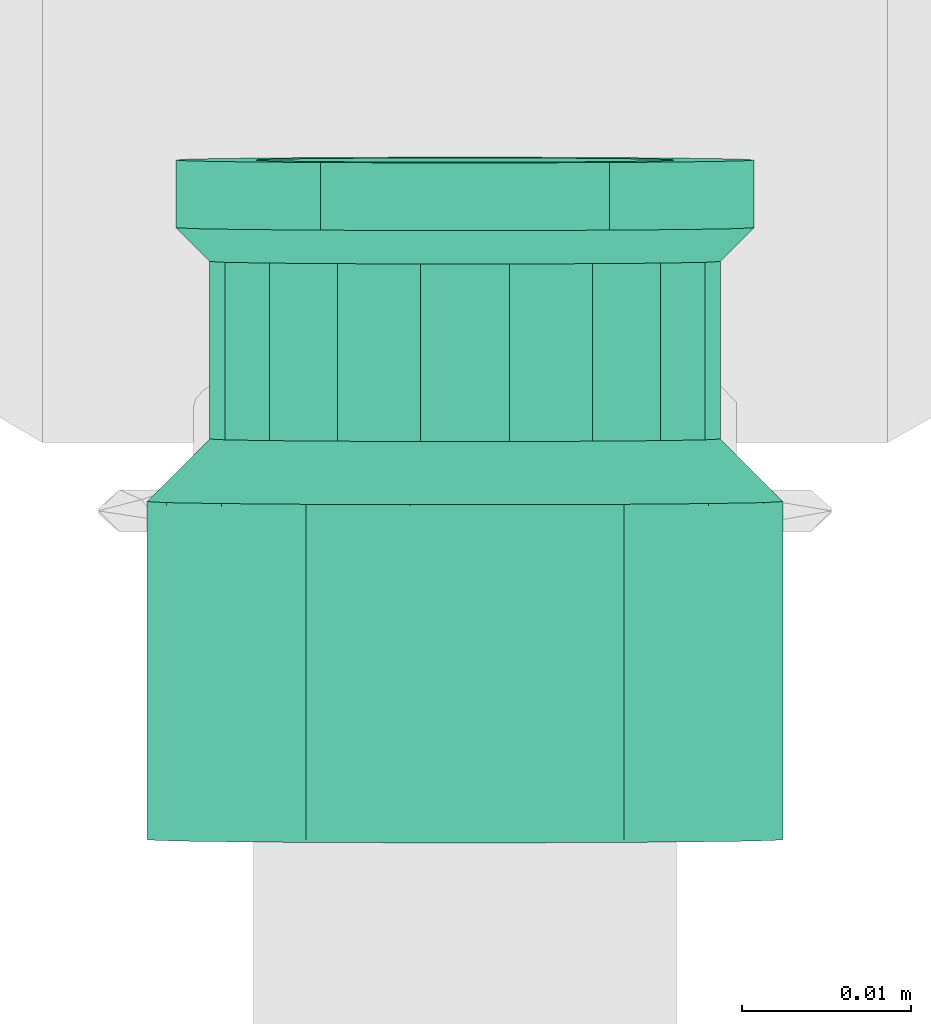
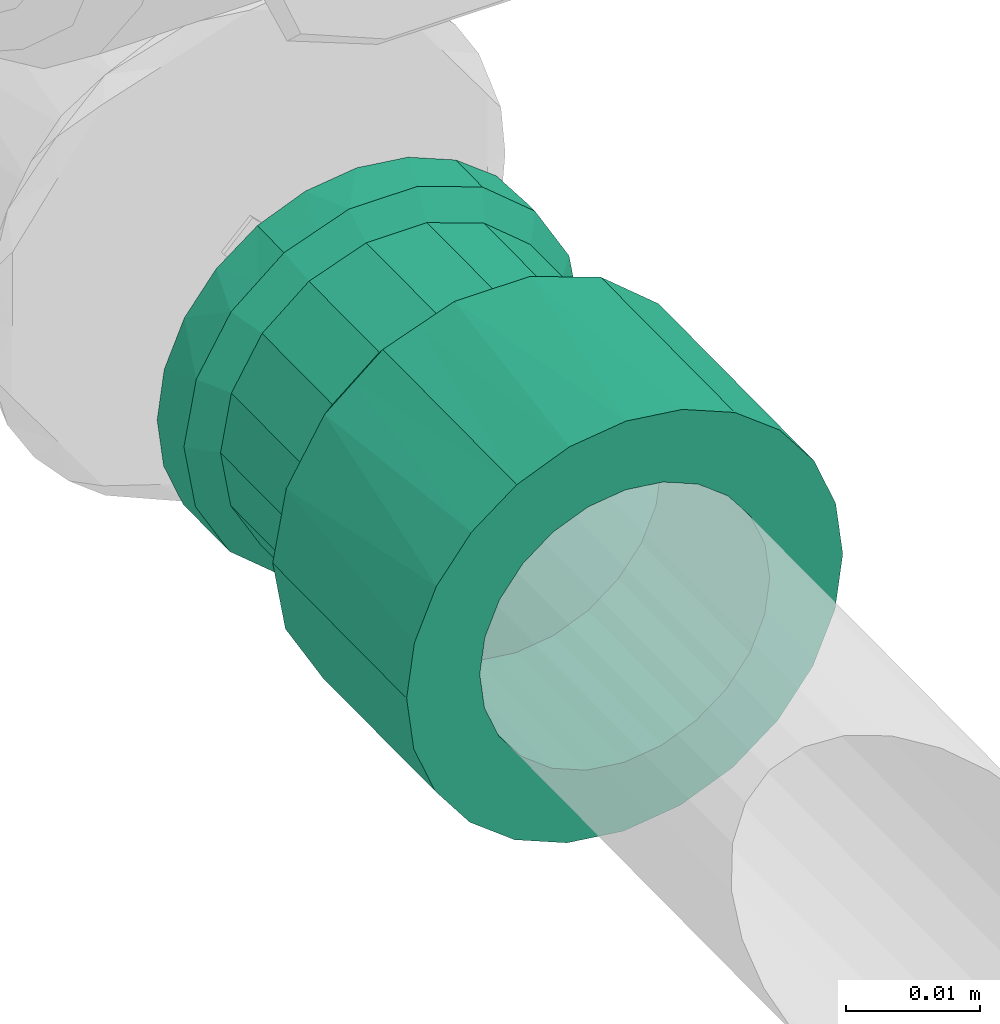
# One storey, part 333 of 589: 1 flow fitting.
"""IFC2X3 building model written with IfcOpenShell, lengths in millimetres."""

import ifcopenshell
import ifcopenshell.guid

model = None  # the IFC model being written
_history = None  # IfcOwnerHistory: only IFC2X3 demands one
_inside = {}  # id of a spatial element -> (the spatial element, [elements in it])
_under = {}  # id of a project, library or spatial element -> (it, [spatial elements below it])
_declared = {}  # id of a project -> (the project, [libraries it declares])
_typed = {}  # id of a type object -> (the type object, [elements of that type])
_made_of = {}  # id of a material, layer set ... -> (it, [elements and type objects made of it])


def new_model(schema):
    """Start an empty IFC model of exactly this schema.

    Asked for "IFC4X3", IfcOpenShell would pick the latest addendum, in which some entities
    have other attributes; the version numbers below select the first issue.
    IFC2X3 requires an IfcOwnerHistory on every rooted entity: one is made here for all.
    """
    global model, _history
    if schema == "IFC4X3":
        model = ifcopenshell.file(schema_version=(4, 3, 0, 0))
    else:
        model = ifcopenshell.file(schema=schema)
    _inside.clear()
    _under.clear()
    _declared.clear()
    _typed.clear()
    _made_of.clear()
    _history = None
    if model.schema == "IFC2X3":
        org = make("IfcOrganization", Name="unknown")
        user = make(
            "IfcPersonAndOrganization",
            ThePerson=make("IfcPerson", FamilyName="unknown"),
            TheOrganization=org,
        )
        app = make(
            "IfcApplication",
            ApplicationDeveloper=org,
            Version="unknown",
            ApplicationFullName="unknown",
            ApplicationIdentifier="unknown",
        )
        _history = make(
            "IfcOwnerHistory",
            OwningUser=user,
            OwningApplication=app,
            ChangeAction="ADDED",
            CreationDate=0,
        )
    return model


def make(cls, **values):
    """One entity of the class cls with the attributes given. An attribute that is None is left unset."""
    return model.create_entity(
        cls, **{name: value for name, value in values.items() if value is not None}
    )


def entity(cls, *values):
    """Any entity or typed value of the class cls, its attributes in the order of the schema. None: left unset."""
    e = model.create_entity(cls)
    for i, value in enumerate(values):
        if value is not None:
            e[i] = value
    return e


def rooted(cls, **values):
    """An entity with a GlobalId (a new one), such as an element, a storey or a relation."""
    return make(cls, GlobalId=ifcopenshell.guid.new(), OwnerHistory=_history, **values)


def si_unit(unit_type, name, prefix=None):
    """IfcSIUnit, for example si_unit("LENGTHUNIT", "METRE", prefix="MILLI")."""
    return make("IfcSIUnit", UnitType=unit_type, Prefix=prefix, Name=name)


def converted_unit(unit_type, name, factor, base, dimensions=None, offset=None):
    """IfcConversionBasedUnit, such as the inch: factor (a typed value) times the base unit."""
    return make(
        "IfcConversionBasedUnit"
        if offset is None
        else "IfcConversionBasedUnitWithOffset",
        ConversionOffset=offset,
        Dimensions=None
        if dimensions is None
        else entity("IfcDimensionalExponents", *dimensions),
        UnitType=unit_type,
        Name=name,
        ConversionFactor=make(
            "IfcMeasureWithUnit", ValueComponent=factor, UnitComponent=base
        ),
    )


def derived_unit(unit_type, elements):
    """IfcDerivedUnit: a product of units, each with its exponent."""
    return make(
        "IfcDerivedUnit",
        Elements=[
            make("IfcDerivedUnitElement", Unit=unit, Exponent=power)
            for unit, power in elements
        ],
        UnitType=unit_type,
    )


def assignment(units):
    """IfcUnitAssignment: the units of a project."""
    return None if units is None else make("IfcUnitAssignment", Units=units)


def point(xyz):
    """IfcCartesianPoint."""
    return None if xyz is None else make("IfcCartesianPoint", Coordinates=xyz)


def direction(xyz):
    """IfcDirection."""
    return None if xyz is None else make("IfcDirection", DirectionRatios=xyz)


def frame(location, z_axis=None, x_axis=None):
    """IfcAxis2Placement3D, a coordinate frame: its origin and axes. An axis left out is left unset."""
    return make(
        "IfcAxis2Placement3D",
        Location=point(location),
        Axis=direction(z_axis),
        RefDirection=direction(x_axis),
    )


def origin():
    """The frame at (0, 0, 0) with its axes left unset."""
    return frame((0.0, 0.0, 0.0))


def place(relative_to, where):
    """IfcLocalPlacement: puts the frame where relative to a parent placement (None: the world)."""
    return make(
        "IfcLocalPlacement", PlacementRelTo=relative_to, RelativePlacement=where
    )


def context(
    kind, dimensions, precision=None, world=None, true_north=None, identifier=None
):
    """IfcGeometricRepresentationContext, for example the 3D "Model" context."""
    return make(
        "IfcGeometricRepresentationContext",
        ContextIdentifier=identifier,
        ContextType=kind,
        CoordinateSpaceDimension=dimensions,
        Precision=precision,
        WorldCoordinateSystem=world,
        TrueNorth=true_north,
    )


def subcontext(parent, identifier, kind, view, scale=None):
    """IfcGeometricRepresentationSubContext, for example "Body" below "Model"."""
    return make(
        "IfcGeometricRepresentationSubContext",
        ContextIdentifier=identifier,
        ContextType=kind,
        ParentContext=parent,
        TargetScale=scale,
        TargetView=view,
    )


def project(units=None, contexts=None):
    """IfcProject with its units and contexts."""
    return rooted(
        "IfcProject",
        Name="project",
        RepresentationContexts=contexts,
        UnitsInContext=assignment(units),
    )


def spatial(cls, under=None, at=None, **own):
    """A site, building, storey or space (cls), placed at a placement, below another one or the project."""
    s = rooted(cls, ObjectPlacement=at, **own)
    if under is not None:
        _under.setdefault(under.id(), (under, []))[1].append(s)
    return s


def faces_of(points, faces, orient=None, outer=None):
    """IfcFace entities. A face is a list of loops; a loop is a list of indices into points, from 0.

    orient and outer hold one flag for each loop. By default every Orientation is true, the
    first loop of a face is its IfcFaceOuterBound and the others are IfcFaceBound.
    """
    made = []
    for i, loops in enumerate(faces):
        bounds = []
        for j, loop in enumerate(loops):
            is_outer = j == 0 if outer is None else outer[i][j]
            bounds.append(
                make(
                    "IfcFaceOuterBound" if is_outer else "IfcFaceBound",
                    Bound=make("IfcPolyLoop", Polygon=[points[k] for k in loop]),
                    Orientation=True if orient is None else orient[i][j],
                )
            )
        made.append(make("IfcFace", Bounds=bounds))
    return made


def faceted_brep(points, faces, orient=None, outer=None, voids=None):
    """IfcFacetedBrep: a solid bounded by flat faces; with voids (closed shells), ...WithVoids."""
    shared = [point(p) for p in points]
    hull = make("IfcClosedShell", CfsFaces=faces_of(shared, faces, orient, outer))
    if voids is None:
        return make("IfcFacetedBrep", Outer=hull)
    return make(
        "IfcFacetedBrepWithVoids",
        Outer=hull,
        Voids=[
            make(cls, CfsFaces=faces_of(shared, fs, o, b)) for cls, fs, o, b in voids
        ],
    )


def shape(context_of_items, identifier, shape_type, items):
    """IfcShapeRepresentation: the items that make up one representation, for example the "Body"."""
    return make(
        "IfcShapeRepresentation",
        ContextOfItems=context_of_items,
        RepresentationIdentifier=identifier,
        RepresentationType=shape_type,
        Items=items,
    )


def source(mapping_origin, context_of_items, identifier, shape_type, items):
    """IfcRepresentationMap: a shape defined once, which mapped items show again and again."""
    return make(
        "IfcRepresentationMap",
        MappingOrigin=mapping_origin,
        MappedRepresentation=shape(context_of_items, identifier, shape_type, items),
    )


def transform(
    local_origin,
    x_axis=None,
    y_axis=None,
    z_axis=None,
    scale=None,
    scale2=None,
    scale3=None,
    uniform=True,
):
    """IfcCartesianTransformationOperator3D, or its non-uniform kind. x_axis, y_axis, z_axis: its Axis1, 2, 3."""
    if uniform:
        return make(
            "IfcCartesianTransformationOperator3D",
            Axis1=direction(x_axis),
            Axis2=direction(y_axis),
            LocalOrigin=point(local_origin),
            Scale=scale,
            Axis3=direction(z_axis),
        )
    return make(
        "IfcCartesianTransformationOperator3DnonUniform",
        Axis1=direction(x_axis),
        Axis2=direction(y_axis),
        LocalOrigin=point(local_origin),
        Scale=scale,
        Axis3=direction(z_axis),
        Scale2=scale2,
        Scale3=scale3,
    )


def mapped(mapping_source, mapping_target):
    """IfcMappedItem: shows the shape of a source again, moved by a transform."""
    return make(
        "IfcMappedItem", MappingSource=mapping_source, MappingTarget=mapping_target
    )


def material(Name=None, Category=None):
    """IfcMaterial."""
    return make("IfcMaterial", Name=Name, Category=Category)


def made_of(thing, what):
    """Note that an element or type object is made of a material, layer set ...; save() writes the relation."""
    if what is not None:
        _made_of.setdefault(what.id(), (what, []))[1].append(thing)
    return thing


def type_object(cls, material=None, **own):
    """A type object (cls), such as IfcWallType, which elements share."""
    return made_of(rooted(cls, **own), material)


def type_shapes(of_type, sources):
    """Give a type object the sources (RepresentationMaps) that its elements show as mapped items."""
    of_type.RepresentationMaps = sources


def element(
    cls,
    number,
    at=None,
    inside=None,
    cuts=None,
    type_object=None,
    material=None,
    context=None,
    identifier="Body",
    shape_type=None,
    held_by="IfcProductDefinitionShape",
    body=None,
    shapes=None,
    **own,
):
    """One element of the class cls, such as IfcWall. Its Tag is "e" and its number.

    at: its placement. inside: the storey or other place that contains it. cuts: it is an
    opening in that element (IfcRelVoidsElement). A single representation is given by context,
    identifier, shape_type and body (its items); several are given by shapes. held_by: the class
    of the entity that holds the representations. save() writes the other relations.
    """
    e = rooted(cls, Tag="e%d" % number, ObjectPlacement=at, **own)
    if body is not None:
        shapes = [shape(context, identifier, shape_type, body)]
    if shapes is not None:
        e.Representation = make(held_by, Representations=shapes)
    if inside is not None:
        _inside.setdefault(inside.id(), (inside, []))[1].append(e)
    if cuts is not None:
        rooted(
            "IfcRelVoidsElement", RelatingBuildingElement=cuts, RelatedOpeningElement=e
        )
    if type_object is not None:
        _typed.setdefault(type_object.id(), (type_object, []))[1].append(e)
    return made_of(e, material)


def aggregate(whole, parts):
    """IfcRelAggregates: a whole, such as a stair, and the parts it consists of."""
    return rooted("IfcRelAggregates", RelatingObject=whole, RelatedObjects=parts)


def save(model, path):
    """Write the relations noted so far, then the file.

    IfcRelAggregates (storeys below a building ...), IfcRelContainedInSpatialStructure (elements
    in a storey), IfcRelDefinesByType, IfcRelAssociatesMaterial and IfcRelDeclares: one each for
    every whole, place, type object, material and project.
    """
    for whole, parts in _under.values():
        aggregate(whole, parts)
    for where, things in _inside.values():
        rooted(
            "IfcRelContainedInSpatialStructure",
            RelatedElements=things,
            RelatingStructure=where,
        )
    for kind, things in _typed.values():
        rooted("IfcRelDefinesByType", RelatedObjects=things, RelatingType=kind)
    for what, things in _made_of.values():
        rooted("IfcRelAssociatesMaterial", RelatedObjects=things, RelatingMaterial=what)
    for by, libraries in _declared.values():
        rooted("IfcRelDeclares", RelatingContext=by, RelatedDefinitions=libraries)
    model.write(path)


model = new_model("IFC2X3")

# Units and contexts
model_context = context("Model", 3, precision=0.01, world=origin(), true_north=direction((6.123031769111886e-17, 1.0)))
body_context = subcontext(model_context, "Body", "Model", "MODEL_VIEW")
ifc_project = project(units=[si_unit("LENGTHUNIT", "METRE", prefix="MILLI"), si_unit("AREAUNIT", "SQUARE_METRE"), si_unit("VOLUMEUNIT", "CUBIC_METRE"), converted_unit("PLANEANGLEUNIT", "DEGREE", entity("IfcRatioMeasure", 0.017453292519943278), si_unit("PLANEANGLEUNIT", "RADIAN"), dimensions=[0, 0, 0, 0, 0, 0, 0]), si_unit("MASSUNIT", "GRAM", prefix="KILO"), derived_unit("MASSDENSITYUNIT", [(si_unit("MASSUNIT", "GRAM", prefix="KILO"), 1), (si_unit("LENGTHUNIT", "METRE"), -3)]), derived_unit("IONCONCENTRATIONUNIT", [(si_unit("MASSUNIT", "GRAM", prefix="KILO"), 1), (si_unit("LENGTHUNIT", "METRE"), -3)]), derived_unit("MOMENTOFINERTIAUNIT", [(si_unit("LENGTHUNIT", "METRE"), 4)]), si_unit("TIMEUNIT", "SECOND"), si_unit("FREQUENCYUNIT", "HERTZ"), si_unit("THERMODYNAMICTEMPERATUREUNIT", "DEGREE_CELSIUS"), derived_unit("THERMALTRANSMITTANCEUNIT", [(si_unit("MASSUNIT", "GRAM", prefix="KILO"), 1), (si_unit("THERMODYNAMICTEMPERATUREUNIT", "KELVIN"), -1), (si_unit("TIMEUNIT", "SECOND"), -3)]), derived_unit("THERMALCONDUCTANCEUNIT", [(si_unit("MASSUNIT", "GRAM", prefix="KILO"), 1), (si_unit("THERMODYNAMICTEMPERATUREUNIT", "KELVIN"), -1), (si_unit("TIMEUNIT", "SECOND"), -3), (si_unit("LENGTHUNIT", "METRE"), 1)]), derived_unit("VOLUMETRICFLOWRATEUNIT", [(si_unit("LENGTHUNIT", "METRE"), 3), (si_unit("TIMEUNIT", "SECOND"), -1)]), derived_unit("MASSFLOWRATEUNIT", [(si_unit("MASSUNIT", "GRAM", prefix="KILO"), 1), (si_unit("TIMEUNIT", "SECOND"), -1)]), derived_unit("ROTATIONALFREQUENCYUNIT", [(si_unit("TIMEUNIT", "SECOND"), -1)]), si_unit("ELECTRICCURRENTUNIT", "AMPERE"), si_unit("ELECTRICVOLTAGEUNIT", "VOLT"), si_unit("POWERUNIT", "WATT"), si_unit("FORCEUNIT", "NEWTON", prefix="KILO"), si_unit("ILLUMINANCEUNIT", "LUX"), si_unit("LUMINOUSFLUXUNIT", "LUMEN"), si_unit("LUMINOUSINTENSITYUNIT", "CANDELA"), derived_unit("USERDEFINED", [(si_unit("MASSUNIT", "GRAM", prefix="KILO"), -1), (si_unit("LENGTHUNIT", "METRE"), -2), (si_unit("TIMEUNIT", "SECOND"), 3), (si_unit("LUMINOUSFLUXUNIT", "LUMEN"), 1)]), derived_unit("USERDEFINED", [(si_unit("MASSUNIT", "GRAM", prefix="KILO"), 1), (si_unit("TIMEUNIT", "SECOND"), -3), (si_unit("LENGTHUNIT", "METRE"), 3), (si_unit("ELECTRICCURRENTUNIT", "AMPERE"), -2)]), derived_unit("SOUNDPOWERUNIT", [(si_unit("MASSUNIT", "GRAM", prefix="KILO"), 1), (si_unit("TIMEUNIT", "SECOND"), -3), (si_unit("LENGTHUNIT", "METRE"), 2)]), derived_unit("SOUNDPRESSUREUNIT", [(si_unit("MASSUNIT", "GRAM", prefix="KILO"), 1), (si_unit("LENGTHUNIT", "METRE"), -1), (si_unit("TIMEUNIT", "SECOND"), -2)]), derived_unit("LINEARVELOCITYUNIT", [(si_unit("LENGTHUNIT", "METRE"), 1), (si_unit("TIMEUNIT", "SECOND"), -1)]), si_unit("PRESSUREUNIT", "PASCAL"), derived_unit("USERDEFINED", [(si_unit("MASSUNIT", "GRAM", prefix="KILO"), 1), (si_unit("LENGTHUNIT", "METRE"), -2), (si_unit("TIMEUNIT", "SECOND"), -2)]), derived_unit("LINEARFORCEUNIT", [(si_unit("MASSUNIT", "GRAM", prefix="KILO"), 1), (si_unit("TIMEUNIT", "SECOND"), -2)]), derived_unit("PLANARFORCEUNIT", [(si_unit("MASSUNIT", "GRAM", prefix="KILO"), 1), (si_unit("LENGTHUNIT", "METRE"), -1), (si_unit("TIMEUNIT", "SECOND"), -2)]), derived_unit("SPECIFICHEATCAPACITYUNIT", [(si_unit("THERMODYNAMICTEMPERATUREUNIT", "KELVIN"), -1), (si_unit("LENGTHUNIT", "METRE"), 2), (si_unit("TIMEUNIT", "SECOND"), -2)]), derived_unit("HEATINGVALUEUNIT", [(si_unit("LENGTHUNIT", "METRE"), 2), (si_unit("TIMEUNIT", "SECOND"), -2)]), derived_unit("VAPORPERMEABILITYUNIT", [(si_unit("LENGTHUNIT", "METRE"), -1), (si_unit("TIMEUNIT", "SECOND"), 1)]), derived_unit("DYNAMICVISCOSITYUNIT", [(si_unit("MASSUNIT", "GRAM", prefix="KILO"), 1), (si_unit("TIMEUNIT", "SECOND"), -1), (si_unit("LENGTHUNIT", "METRE"), -1)]), derived_unit("THERMALEXPANSIONCOEFFICIENTUNIT", [(si_unit("THERMODYNAMICTEMPERATUREUNIT", "KELVIN"), -1)]), derived_unit("MODULUSOFELASTICITYUNIT", [(si_unit("MASSUNIT", "GRAM", prefix="KILO"), 1), (si_unit("LENGTHUNIT", "METRE"), -1), (si_unit("TIMEUNIT", "SECOND"), -2)]), derived_unit("ISOTHERMALMOISTURECAPACITYUNIT", [(si_unit("LENGTHUNIT", "METRE"), 3), (si_unit("MASSUNIT", "GRAM", prefix="KILO"), -1)]), derived_unit("MOISTUREDIFFUSIVITYUNIT", [(si_unit("TIMEUNIT", "SECOND"), -1), (si_unit("LENGTHUNIT", "METRE"), 2)])], contexts=[model_context])

# Site, building, storey
site_placement = place(None, origin())
site = spatial("IfcSite", under=ifc_project, at=site_placement, Name="Default", CompositionType="ELEMENT")
building_placement = place(site_placement, origin())
building = spatial("IfcBuilding", under=site, at=building_placement, CompositionType="ELEMENT")
storey_placement = place(building_placement, frame((0.0, 0.0, 100.0)))
storey = spatial("IfcBuildingStorey", under=building, at=storey_placement, Name="TÉRREO", CompositionType="ELEMENT", Elevation=100.0)

# Flow fitting
ifc_material = material(Name="PVC Azul")
pipe_fitting_type = type_object("IfcPipeFittingType", Name="Luva Soldavel com Bucha de Latao - Fortlev - AleBim:Standard", PredefinedType="NOTDEFINED", material=ifc_material)
shared_shape = source(origin(), body_context, "Body", "Brep", [
    faceted_brep([(0.0, -9.400000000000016, -16.28127759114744), (0.0, -13.2936074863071, -13.293607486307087), (0.0, -6.249999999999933, -10.825317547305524), (0.0, -3.235238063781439, -12.074072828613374), (0.0, -4.865798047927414, -18.15940553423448), (0.0, -8.838834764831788, -8.838834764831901), (0.0, -16.281277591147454, -9.399999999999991), (0.0, -10.82531754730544, -6.250000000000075), (0.0, -12.074072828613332, -3.2352380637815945), (0.0, -18.159405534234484, -4.865798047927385), (0.0, -12.5, 0.0), (0.0, -18.8, 0.0), (0.0, -12.074072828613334, 3.2352380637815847), (0.0, -18.159405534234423, 4.8657980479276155), (0.0, -10.825317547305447, 6.250000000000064), (0.0, -16.281277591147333, 9.400000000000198), (0.0, -8.838834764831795, 8.838834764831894), (0.0, -13.293607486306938, 13.29360748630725), (0.0, -6.249999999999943, 10.825317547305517), (0.0, -9.399999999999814, 16.281277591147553), (0.0, -3.23523806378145, 12.07407282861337), (0.0, -4.865798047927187, 18.159405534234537), (0.0, 0.0, 12.5), (0.0, 0.0, 18.8), (0.0, 3.2352380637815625, 12.074072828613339), (0.0, 4.865798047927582, 18.159405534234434), (0.0, 6.2500000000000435, 10.825317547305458), (0.0, 9.400000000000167, 16.28127759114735), (0.0, 8.838834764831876, 8.838834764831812), (0.0, 13.29360748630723, 13.293607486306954), (0.0, 10.825317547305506, 6.249999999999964), (0.0, 16.281277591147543, 9.399999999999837), (0.0, 18.159405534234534, 4.865798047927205), (0.0, 12.074072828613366, 3.2352380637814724), (0.0, 18.8, 0.0), (0.0, 12.5, 0.0), (0.0, 18.15940553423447, -4.865798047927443), (0.0, 12.074072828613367, -3.2352380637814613), (0.0, 16.281277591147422, -9.400000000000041), (0.0, 10.825317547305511, -6.249999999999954), (0.0, 13.293607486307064, -13.293607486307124), (0.0, 8.838834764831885, -8.838834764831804), (0.0, 9.399999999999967, -16.281277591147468), (0.0, 6.250000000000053, -10.825317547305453), (0.0, 4.86579804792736, -18.159405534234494), (0.0, 3.2352380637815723, -12.074072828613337), (0.0, 0.0, -18.8), (0.0, 0.0, -12.5), (20.0, 17.66604204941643, 6.4304710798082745), (20.0, 18.233021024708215, 3.2152355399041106), (20.0, 11.899800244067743, 14.183636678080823), (20.0, 14.400961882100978, 12.08520983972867), (20.0, 16.033501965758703, 9.257840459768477), (20.0, 6.330580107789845, 17.39840655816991), (20.0, 3.2625216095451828, 18.514749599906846), (20.0, 18.8, 0.0), (20.0, 9.398638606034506, 16.282063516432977), (20.0, -17.667654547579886, 6.4260394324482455), (20.0, -9.402722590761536, 16.279705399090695), (20.0, -6.334944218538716, 17.39681801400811), (20.0, -3.267165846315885, 18.513930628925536), (20.0, -14.403992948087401, 12.081597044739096), (20.0, -11.903357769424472, 14.180651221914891), (20.0, -18.8, 0.0), (20.0, -16.03582374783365, 9.253818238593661), (20.0, -0.0023221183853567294, 18.514340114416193), (20.0, -17.66765454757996, -6.426039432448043), (20.0, -11.903357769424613, -14.180651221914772), (20.0, -14.403992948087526, -12.081597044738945), (20.0, -16.035823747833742, -9.253818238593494), (20.0, -6.334944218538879, -17.39681801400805), (20.0, -3.2671658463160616, -18.513930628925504), (20.0, 18.233021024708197, -3.2152355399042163), (20.0, -9.402722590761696, -16.2797053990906), (20.0, 6.330580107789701, -17.398406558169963), (20.0, 3.2625216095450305, -18.514749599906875), (20.0, 9.398638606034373, -16.282063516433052), (20.0, 11.899800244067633, -14.183636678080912), (20.0, 17.66604204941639, -6.43047107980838), (20.0, 16.033501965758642, -9.257840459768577), (20.0, 14.400961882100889, -12.085209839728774), (20.0, -0.0023221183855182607, -18.51434011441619), (23.69999999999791, 14.19050976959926, 5.16134018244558), (23.699999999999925, 15.09999999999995, 0.0), (23.699999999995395, 5.088173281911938, 13.97297617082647), (23.699999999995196, 2.6241598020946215, 14.870231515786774), (23.699999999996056, 9.560675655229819, 11.38977837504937), (23.699999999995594, 7.552186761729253, 13.075720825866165), (23.699999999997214, 12.879837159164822, 7.432588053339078), (23.699999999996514, 11.569164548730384, 9.703835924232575), (23.699999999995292, 0.0018651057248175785, 14.870560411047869), (23.69999999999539, -2.620429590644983, 14.870889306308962), (23.699999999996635, -9.557818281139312, 11.392176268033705), (23.699999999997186, -11.566730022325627, 9.706737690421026), (23.699999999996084, -7.548906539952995, 13.077614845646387), (23.699999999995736, -5.084668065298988, 13.974252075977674), (23.699999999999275, -14.644607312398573, 2.582449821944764), (23.699999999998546, -14.189214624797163, 5.164899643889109), (23.700000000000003, -15.099999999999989, 0.0), (23.699999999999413, -14.732236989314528, 2.085517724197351), (23.699999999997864, -12.877972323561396, 7.4358186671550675), (23.699999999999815, -14.644607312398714, -2.582449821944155), (23.699999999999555, -14.18921462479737, -5.164899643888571), (23.699999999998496, -5.084668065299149, -13.97425207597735), (23.699999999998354, -2.620429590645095, -14.87088930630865), (23.69999999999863, -7.548906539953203, -13.077614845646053), (23.69999999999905, -11.566730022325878, -9.706737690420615), (23.69999999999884, -9.557818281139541, -11.392176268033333), (23.6999999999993, 14.190509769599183, -5.1613401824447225), (23.699999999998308, 0.0018651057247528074, -14.870560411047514), (23.699999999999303, -12.877972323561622, -7.435818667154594), (23.699999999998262, 2.6241598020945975, -14.870231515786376), (23.699999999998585, 9.56067565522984, -11.389778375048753), (23.699999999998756, 11.569164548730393, -9.703835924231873), (23.699999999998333, 5.088173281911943, -13.972976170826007), (23.69999999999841, 7.552186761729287, -13.075720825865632), (23.69999999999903, 12.879837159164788, -7.432588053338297), (34.20000000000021, -14.189214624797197, -5.164899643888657), (34.20000000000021, -14.73223698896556, -2.085517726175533), (34.20000000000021, -15.099999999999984, 0.0), (34.20000000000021, -9.55781828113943, -11.392176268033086), (34.20000000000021, -11.566730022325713, -9.706737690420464), (34.20000000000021, -7.548906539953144, -13.077614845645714), (34.20000000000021, -12.877972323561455, -7.43581866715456), (34.20000000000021, -2.620429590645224, -14.870889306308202), (34.20000000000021, -5.084668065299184, -13.974252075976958), (34.20000000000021, 2.6241598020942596, -14.870231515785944), (34.20000000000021, 0.0018651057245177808, -14.870560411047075), (34.20000000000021, 5.0881732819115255, -13.97297617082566), (34.20000000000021, 7.552186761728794, -13.075720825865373), (34.20000000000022, 11.56916454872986, -9.70383592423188), (34.200000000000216, 9.560675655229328, -11.389778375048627), (34.20000000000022, 12.879837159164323, -7.432588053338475), (34.20000000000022, 14.19050976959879, -5.161340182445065), (34.20000000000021, 15.100000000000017, 0.0), (34.199999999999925, 14.190509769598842, 5.161340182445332), (34.19999999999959, 7.552186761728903, 13.0757208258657), (34.199999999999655, 9.56067565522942, 11.389778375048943), (34.19999999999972, 11.569164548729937, 9.703835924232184), (34.199999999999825, 12.879837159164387, 7.432588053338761), (34.19999999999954, 2.624159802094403, 14.87023151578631), (34.19999999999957, 5.08817328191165, 13.972976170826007), (34.19999999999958, -2.6204295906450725, 14.870889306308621), (34.19999999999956, 0.0018651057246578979, 14.870560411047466), (34.199999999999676, -7.548906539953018, 13.077614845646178), (34.199999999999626, -5.084668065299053, 13.974252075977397), (34.20000000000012, -14.644607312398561, 2.582449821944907), (34.20000000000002, -14.18921462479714, 5.164899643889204), (34.199999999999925, -12.877972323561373, 7.435818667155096), (34.19999999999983, -11.566730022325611, 9.706737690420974), (34.199999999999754, -9.557818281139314, 11.392176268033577), (36.20000000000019, -17.099999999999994, 0.0), (36.20000000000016, -16.698266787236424, 2.2781566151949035), (36.199999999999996, -16.584290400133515, 2.9244961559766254), (36.200000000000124, -16.068580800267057, 5.848992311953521), (36.20000000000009, -14.583664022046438, 8.420695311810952), (36.20000000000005, -13.098747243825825, 10.992398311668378), (36.200000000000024, -10.823754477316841, 12.90107378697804), (36.2, -8.548761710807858, 14.809749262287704), (36.19999999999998, -5.758134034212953, 15.825146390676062), (36.19999999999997, -2.9675063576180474, 16.840543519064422), (36.19999999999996, 0.0021121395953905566, 16.84017106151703), (36.19999999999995, 2.9717306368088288, 16.839798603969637), (36.199999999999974, 8.55247639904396, 14.807604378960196), (36.19999999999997, 5.762103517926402, 15.823701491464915), (36.20000000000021, 17.100000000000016, 0.0), (36.2000000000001, 16.070047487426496, 5.844961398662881), (36.200000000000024, 13.101504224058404, 10.989112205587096), (36.20000000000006, 14.585775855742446, 8.417036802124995), (36.2, 10.826990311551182, 12.898358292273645), (36.20000000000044, 16.07004748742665, -5.844961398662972), (36.200000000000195, 0.0021121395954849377, -16.84017106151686), (36.20000000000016, -2.9675063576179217, -16.84054351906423), (36.20000000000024, 2.9717306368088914, -16.839798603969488), (36.200000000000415, 14.58577585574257, -8.417036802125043), (36.20000000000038, 13.10150422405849, -10.989112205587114), (36.20000000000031, 8.552476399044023, -14.807604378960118), (36.20000000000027, 5.7621035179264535, -15.823701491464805), (36.20000000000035, 10.826990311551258, -12.898358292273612), (36.20000000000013, -5.758134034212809, -15.825146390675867), (36.2000000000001, -8.548761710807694, -14.809749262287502), (36.200000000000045, -16.068580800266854, -5.848992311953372), (36.200000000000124, -16.58429040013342, -2.924496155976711), (36.20000000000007, -13.098747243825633, -10.992398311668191), (36.20000000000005, -14.583664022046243, -8.420695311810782), (36.20000000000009, -10.823754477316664, -12.901073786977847), (40.200000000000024, 8.550000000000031, -14.809034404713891), (40.200000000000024, 12.091525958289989, -12.091525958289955), (40.200000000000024, 6.2500000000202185, -10.825317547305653), (40.200000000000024, 3.2352380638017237, -12.074072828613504), (40.200000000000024, 4.425805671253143, -16.51733162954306), (40.200000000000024, 8.838834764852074, -8.838834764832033), (40.200000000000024, 14.809034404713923, -8.549999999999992), (40.200000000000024, 10.825317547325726, -6.250000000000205), (40.200000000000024, 12.074072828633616, -3.235238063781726), (40.200000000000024, 16.517331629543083, -4.4258056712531), (40.200000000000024, 12.500000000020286, 0.0), (40.200000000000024, 17.100000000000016, 0.0), (40.200000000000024, 12.074072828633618, 3.2352380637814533), (40.200000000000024, 16.51733162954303, 4.42580567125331), (40.200000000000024, 10.825317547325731, 6.2499999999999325), (40.200000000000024, 14.809034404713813, 8.550000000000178), (40.200000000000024, 8.83883476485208, 8.838834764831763), (40.200000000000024, 12.091525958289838, 12.091525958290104), (40.200000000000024, 6.250000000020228, 10.825317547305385), (40.200000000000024, 8.549999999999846, 14.809034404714), (40.200000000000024, 3.235238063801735, 12.074072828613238), (40.200000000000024, 4.425805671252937, 16.51733162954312), (40.200000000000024, 0.0, 12.49999999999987), (40.200000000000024, 0.0, 17.1), (40.200000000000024, -3.235238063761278, 12.07407282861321), (40.200000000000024, -4.425805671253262, 16.51733162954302), (40.200000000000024, -6.249999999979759, 10.825317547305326), (40.200000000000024, -8.550000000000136, 14.809034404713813), (40.200000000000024, -8.838834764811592, 8.838834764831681), (40.200000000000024, -12.091525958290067, 12.091525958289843), (40.200000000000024, -10.825317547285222, 6.249999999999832), (40.200000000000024, -14.809034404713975, 8.549999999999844), (40.200000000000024, -16.517331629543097, 4.425805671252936), (40.200000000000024, -12.07407282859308, 3.2352380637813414), (40.200000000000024, -17.099999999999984, 0.0), (40.200000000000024, -12.499999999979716, 0.0), (40.200000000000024, -16.517331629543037, -4.425805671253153), (40.200000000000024, -12.074072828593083, -3.2352380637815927), (40.200000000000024, -14.809034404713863, -8.550000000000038), (40.200000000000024, -10.825317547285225, -6.250000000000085), (40.200000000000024, -12.09152595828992, -12.09152595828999), (40.200000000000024, -8.838834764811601, -8.838834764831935), (40.200000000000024, -8.549999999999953, -14.80903440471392), (40.200000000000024, -6.249999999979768, -10.825317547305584), (40.200000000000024, -4.425805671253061, -16.517331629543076), (40.200000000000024, -3.2352380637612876, -12.074072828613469), (40.200000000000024, 0.0, -17.1), (40.200000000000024, 0.0, -12.500000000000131), (24.0, 3.23523806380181, -12.074072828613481), (24.0, 6.250000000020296, -10.825317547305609), (24.0, 8.838834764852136, -8.83883476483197), (24.0, 10.825317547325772, -6.250000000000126), (24.0, 12.07407282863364, -3.2352380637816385), (24.0, 12.500000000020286, 0.0), (24.0, 12.074072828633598, 3.235238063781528), (24.0, 10.825317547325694, 6.249999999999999), (24.0, 8.838834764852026, 8.838834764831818), (24.0, 6.250000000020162, 10.825317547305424), (24.0, 3.2352380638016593, 12.074072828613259), (24.0, 0.0, 12.49999999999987), (24.0, -3.235238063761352, 12.07407282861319), (24.0, -6.249999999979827, 10.82531754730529), (24.0, -8.83883476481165, 8.83883476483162), (24.0, -10.82531754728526, 6.24999999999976), (24.0, -12.074072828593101, 3.235238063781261), (24.0, -12.499999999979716, 0.0), (24.0, -12.07407282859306, -3.235238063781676), (24.0, -10.825317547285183, -6.250000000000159), (24.0, -8.838834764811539, -8.838834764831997), (24.0, -6.2499999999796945, -10.825317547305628), (24.0, -3.2352380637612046, -12.074072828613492), (24.0, 0.0, -12.500000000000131), (16.200000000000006, -12.074072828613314, 3.2352380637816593), (16.200000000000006, -12.5, 0.0), (16.200000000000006, -10.825317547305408, 6.250000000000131), (16.200000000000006, -8.838834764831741, 8.83883476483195), (16.200000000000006, -6.2499999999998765, 10.825317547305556), (16.200000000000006, -3.2352380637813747, 12.07407282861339), (16.200000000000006, 0.0, 12.5), (16.200000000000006, 6.250000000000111, 10.825317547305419), (16.200000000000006, 3.235238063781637, 12.074072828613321), (16.200000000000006, 8.838834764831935, 8.838834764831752), (16.200000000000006, 10.825317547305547, 6.249999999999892), (16.200000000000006, 12.074072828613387, 3.235238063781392), (16.200000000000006, 12.5, 0.0), (16.200000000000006, 12.074072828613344, -3.2352380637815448), (16.200000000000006, 10.825317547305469, -6.2500000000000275), (16.200000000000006, 8.838834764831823, -8.838834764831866), (16.200000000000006, 6.24999999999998, -10.825317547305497), (16.200000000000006, 3.2352380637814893, -12.07407282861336), (16.200000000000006, 0.0, -12.5), (16.200000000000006, -6.250000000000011, -10.82531754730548), (16.200000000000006, -3.2352380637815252, -12.07407282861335), (16.200000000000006, -8.83883476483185, -8.838834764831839), (16.200000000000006, -10.825317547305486, -6.249999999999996), (16.200000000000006, -12.074072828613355, -3.2352380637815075)], [[[0, 1, 2]], [[0, 2, 3]], [[3, 4, 0]], [[2, 1, 5]], [[6, 5, 1]], [[7, 5, 6]], [[8, 7, 6]], [[8, 6, 9]], [[8, 9, 10]], [[10, 9, 11]], [[12, 10, 11]], [[12, 11, 13]], [[14, 12, 13]], [[14, 13, 15]], [[16, 14, 15]], [[15, 17, 16]], [[17, 18, 16]], [[18, 17, 19]], [[18, 19, 20]], [[21, 20, 19]], [[20, 21, 22]], [[22, 21, 23]], [[23, 24, 22]], [[24, 23, 25]], [[24, 25, 26]], [[27, 26, 25]], [[27, 28, 26]], [[27, 29, 28]], [[30, 28, 29]], [[31, 30, 29]], [[32, 30, 31]], [[33, 30, 32]], [[33, 32, 34]], [[34, 35, 33]], [[36, 35, 34]], [[36, 37, 35]], [[37, 36, 38]], [[39, 37, 38]], [[39, 38, 40]], [[39, 40, 41]], [[40, 42, 41]], [[41, 42, 43]], [[43, 42, 44]], [[44, 45, 43]], [[46, 45, 44]], [[4, 47, 46]], [[45, 46, 47]], [[4, 3, 47]], [[32, 48, 49]], [[50, 51, 29]], [[52, 48, 31, 51]], [[53, 25, 54]], [[48, 32, 31]], [[34, 49, 55]], [[25, 53, 27]], [[27, 56, 50]], [[29, 51, 31]], [[13, 57, 15]], [[19, 58, 59]], [[53, 56, 27]], [[21, 19, 59]], [[54, 25, 23]], [[29, 27, 50]], [[59, 60, 21]], [[61, 62, 17]], [[63, 57, 13]], [[32, 49, 34]], [[64, 61, 15, 57]], [[11, 63, 13]], [[17, 62, 19]], [[65, 54, 23, 60]], [[61, 17, 15]], [[19, 62, 58]], [[21, 60, 23]], [[66, 63, 9]], [[67, 68, 1]], [[69, 66, 6, 68]], [[70, 4, 71]], [[66, 9, 6]], [[63, 11, 9]], [[1, 68, 6]], [[34, 55, 72]], [[70, 73, 0]], [[71, 4, 46]], [[74, 75, 44]], [[42, 76, 74]], [[42, 77, 76]], [[36, 78, 38]], [[38, 78, 79, 80]], [[36, 34, 72]], [[77, 40, 80]], [[72, 78, 36]], [[0, 73, 67]], [[81, 71, 46, 75]], [[1, 0, 67]], [[4, 70, 0]], [[80, 40, 38]], [[40, 77, 42]], [[44, 75, 46]], [[44, 42, 74]], [[82, 83, 49]], [[84, 53, 85]], [[86, 50, 87]], [[88, 52, 89]], [[53, 54, 85]], [[50, 56, 87]], [[49, 48, 82]], [[52, 51, 89]], [[87, 56, 84]], [[83, 55, 49]], [[88, 48, 52]], [[51, 50, 86]], [[85, 54, 90]], [[82, 48, 88]], [[56, 53, 84]], [[89, 51, 86]], [[65, 60, 91]], [[92, 62, 93]], [[59, 58, 94]], [[90, 65, 91]], [[95, 59, 94]], [[96, 97, 57]], [[63, 98, 99, 96]], [[64, 57, 97]], [[100, 64, 97]], [[62, 61, 93]], [[93, 61, 100]], [[59, 95, 60]], [[92, 58, 62]], [[61, 64, 100]], [[63, 96, 57]], [[94, 58, 92]], [[54, 65, 90]], [[91, 60, 95]], [[66, 101, 63]], [[98, 63, 101]], [[66, 102, 101]], [[103, 71, 104]], [[105, 73, 70]], [[106, 68, 67]], [[107, 73, 105]], [[102, 66, 69]], [[108, 78, 72]], [[70, 71, 103]], [[109, 104, 81]], [[69, 68, 110]], [[81, 75, 109]], [[110, 102, 69]], [[67, 73, 107]], [[107, 106, 67]], [[75, 111, 109]], [[112, 80, 113]], [[111, 75, 74]], [[110, 68, 106]], [[81, 104, 71]], [[114, 76, 115]], [[103, 105, 70]], [[113, 80, 79]], [[116, 78, 108]], [[115, 76, 77]], [[116, 113, 79]], [[79, 78, 116]], [[55, 83, 72]], [[77, 80, 112]], [[108, 72, 83]], [[112, 115, 77]], [[74, 76, 114]], [[114, 111, 74]], [[117, 118, 119, 98, 101, 102]], [[120, 121, 106, 107, 105, 122]], [[121, 123, 117, 102, 110, 106]], [[124, 125, 122, 105, 103, 104]], [[126, 127, 124, 104, 109, 111]], [[128, 126, 111, 114, 115, 129]], [[112, 113, 130, 131, 129, 115]], [[132, 130, 113, 116, 108, 133]], [[108, 83, 134, 133]], [[135, 134, 83, 82]], [[136, 137, 138, 89, 86, 87]], [[138, 139, 135, 82, 88, 89]], [[140, 141, 136, 87, 84, 85]], [[90, 91, 142, 143, 140, 85]], [[95, 94, 144, 145, 142, 91]], [[99, 98, 119, 146, 147, 97, 96]], [[148, 149, 93, 100, 97, 147]], [[92, 93, 149, 150, 144, 94]], [[147, 146, 119, 151, 152, 153, 154]], [[148, 147, 154, 155, 156, 149]], [[150, 149, 156, 157, 158, 144]], [[158, 159, 160, 142, 145, 144]], [[161, 162, 140, 143, 142, 160]], [[163, 136, 141, 140, 162, 164]], [[165, 134, 135, 166]], [[167, 168, 166, 135, 139, 138]], [[163, 169, 167, 138, 137, 136]], [[170, 133, 134, 165]], [[171, 172, 124, 127, 126, 173]], [[132, 133, 170, 174, 175, 130]], [[126, 128, 129, 176, 177, 173]], [[175, 178, 176, 129, 131, 130]], [[125, 124, 172, 179, 180, 122]], [[151, 119, 118, 117, 181, 182]], [[183, 184, 181, 117, 123, 121]], [[180, 185, 183, 121, 120, 122]], [[186, 187, 188]], [[186, 188, 189]], [[189, 190, 186]], [[188, 187, 191]], [[192, 191, 187]], [[193, 191, 192]], [[194, 193, 192]], [[194, 192, 195]], [[194, 195, 196]], [[196, 195, 197]], [[198, 196, 197]], [[198, 197, 199]], [[200, 198, 199]], [[200, 199, 201]], [[202, 200, 201]], [[201, 203, 202]], [[203, 204, 202]], [[204, 203, 205]], [[204, 205, 206]], [[207, 206, 205]], [[206, 207, 208]], [[208, 207, 209]], [[209, 210, 208]], [[210, 209, 211]], [[210, 211, 212]], [[213, 212, 211]], [[213, 214, 212]], [[213, 215, 214]], [[216, 214, 215]], [[217, 216, 215]], [[218, 216, 217]], [[219, 216, 218]], [[219, 218, 220]], [[220, 221, 219]], [[222, 221, 220]], [[222, 223, 221]], [[223, 222, 224]], [[225, 223, 224]], [[225, 224, 226]], [[225, 226, 227]], [[226, 228, 227]], [[227, 228, 229]], [[229, 228, 230]], [[230, 231, 229]], [[232, 231, 230]], [[190, 233, 232]], [[231, 232, 233]], [[190, 189, 233]], [[218, 154, 153]], [[157, 156, 215]], [[155, 154, 217, 156]], [[159, 211, 160]], [[154, 218, 217]], [[220, 153, 152, 151]], [[213, 158, 157]], [[215, 213, 157]], [[215, 156, 217]], [[205, 163, 164]], [[207, 205, 164]], [[159, 158, 213]], [[211, 159, 213]], [[160, 211, 209]], [[218, 153, 220]], [[164, 162, 207]], [[167, 169, 203]], [[165, 166, 199]], [[168, 167, 201, 166]], [[197, 165, 199]], [[203, 169, 205]], [[161, 160, 209, 162]], [[207, 162, 209]], [[167, 203, 201]], [[205, 169, 163]], [[199, 166, 201]], [[170, 165, 195]], [[178, 175, 187]], [[174, 170, 192, 175]], [[177, 190, 173]], [[170, 195, 192]], [[165, 197, 195]], [[190, 177, 186]], [[186, 176, 178]], [[187, 175, 192]], [[222, 220, 182]], [[228, 180, 179]], [[177, 176, 186]], [[230, 228, 179]], [[173, 190, 232]], [[187, 186, 178]], [[179, 172, 230]], [[183, 185, 226]], [[182, 181, 222]], [[184, 183, 224, 181]], [[222, 181, 224]], [[226, 185, 228]], [[171, 173, 232, 172]], [[230, 172, 232]], [[183, 226, 224]], [[228, 185, 180]], [[220, 151, 182]], [[234, 235, 236, 237, 238, 239, 240, 241, 242, 243, 244, 245, 246, 247, 248, 249, 250, 251, 252, 253, 254, 255, 256, 257]], [[250, 219, 221, 251]], [[12, 258, 259, 10]], [[249, 216, 219, 250]], [[14, 260, 258, 12]], [[214, 248, 247, 212]], [[261, 16, 18, 262]], [[249, 248, 214, 216]], [[261, 260, 14, 16]], [[212, 247, 246, 210]], [[262, 18, 20, 263]], [[210, 246, 245, 208]], [[20, 22, 264, 263]], [[243, 204, 206, 244]], [[26, 265, 266, 24]], [[242, 202, 204, 243]], [[28, 267, 265, 26]], [[200, 241, 240, 198]], [[268, 30, 33, 269]], [[242, 241, 200, 202]], [[268, 267, 28, 30]], [[198, 240, 239, 196]], [[269, 33, 35, 270]], [[206, 208, 245, 244]], [[24, 266, 264, 22]], [[238, 194, 196, 239]], [[37, 271, 270, 35]], [[237, 193, 194, 238]], [[39, 272, 271, 37]], [[191, 236, 235, 188]], [[273, 41, 43, 274]], [[237, 236, 191, 193]], [[273, 272, 39, 41]], [[188, 235, 234, 189]], [[274, 43, 45, 275]], [[189, 234, 257, 233]], [[45, 47, 276, 275]], [[255, 229, 231, 256]], [[2, 277, 278, 3]], [[254, 227, 229, 255]], [[5, 279, 277, 2]], [[225, 253, 252, 223]], [[280, 7, 8, 281]], [[254, 253, 225, 227]], [[280, 279, 5, 7]], [[223, 252, 251, 221]], [[281, 8, 10, 259]], [[231, 233, 257, 256]], [[3, 278, 276, 47]], [[278, 277, 279, 280, 281, 259, 258, 260, 261, 262, 263, 264, 266, 265, 267, 268, 269, 270, 271, 272, 273, 274, 275, 276]]]),
])
type_shapes(pipe_fitting_type, [shared_shape])
flow_fitting_placement = place(storey_placement, frame((405.6691849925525, -6853.4893581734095, 2579.037588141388), z_axis=(0.0, -0.009999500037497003, 0.9999500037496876), x_axis=(0.0, 0.9999500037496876, 0.009999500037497)))
element("IfcFlowFitting", 1, at=flow_fitting_placement, inside=storey, type_object=pipe_fitting_type, material=ifc_material, Name="Luva Soldavel com Bucha de Latao - Fortlev - AleBim:Standard", ObjectType="Luva Soldavel com Bucha de Latao - Fortlev - AleBim:Standard", context=body_context, shape_type="MappedRepresentation", body=[
    mapped(shared_shape, transform((0.0, 0.0, 0.0), scale=1.0)),
])

save(model, "model.ifc")
